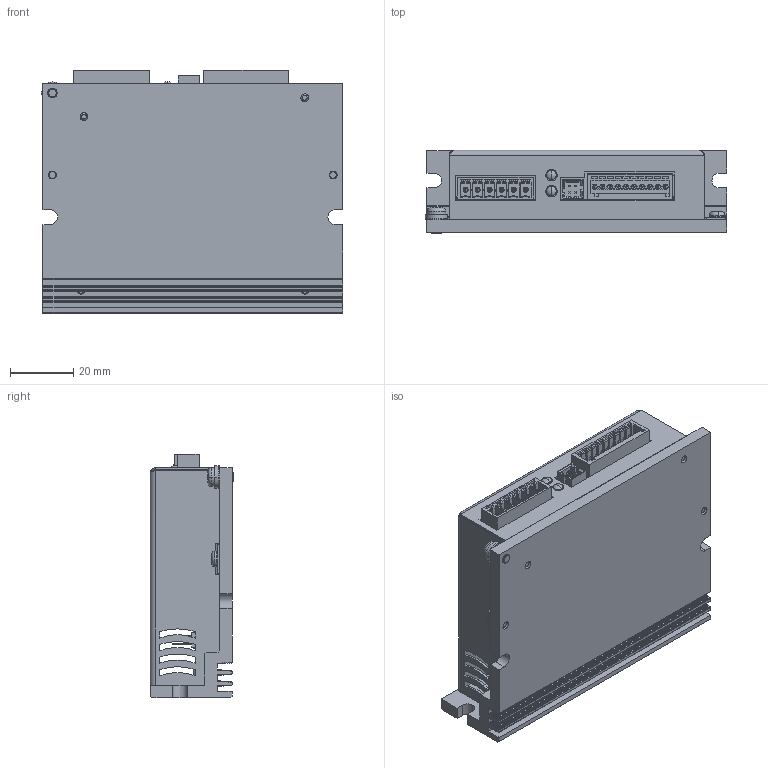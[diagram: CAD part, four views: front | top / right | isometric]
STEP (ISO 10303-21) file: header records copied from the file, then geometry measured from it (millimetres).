
FILE_DESCRIPTION((''),'2;1');
FILE_NAME('LW3D20XX_IBD00_ASM','2020-07-28T16:25:19',('Matteo Maccalli'),(''),'CREO PARAMETRIC BY PTC INC, 2019344','CREO PARAMETRIC BY PTC INC, 2019344','');
FILE_SCHEMA(('AUTOMOTIVE_DESIGN { 1 0 10303 214 1 1 1 1 }'));
Products named in the file (35): ESTRUSO-00_IBD00-00; AD_00941-00_IBD00-00; SCATOLA-00_IBD00-00; TCC_M2E5X04_AF0; TCC_M2E5X04_AF1; BOARD; MC_1_5-6-G-3_81-P14-THR; 1782394_00_ASM; CN1_ASM; MC_0_5-10-G-2_5_THT; 1963502_00_ASM; CN2_ASM; SOLID-110229; COMPOUND-121388; 878330431_ASM; CN6_ASM; SW_DIP8_90_THD; DIP400_ASM; 5151061F; GL400_ASM; SOLID-143102; COMPOUND-149043; 010897061_ASM; JMP400_ASM; RTE0400V04; SW400_ASM; SW401_ASM; PCB_ASM; IBD00-01_1_ASM; TCC_M2E5X05; DIST_MF_M2E5X5_FIL4; MAR-PN3; RONDELLA_DENTELLATA; TCC_M3X06_AF0; LW3D20XX_IBD00_ASM
Assembly tree (39 placements, depth 6):
  LW3D20XX_IBD00_ASM
    ESTRUSO-00_IBD00-00
    AD_00941-00_IBD00-00
    SCATOLA-00_IBD00-00
    TCC_M2E5X04_AF0
    TCC_M2E5X04_AF1
    IBD00-01_1_ASM
      PCB_ASM
        BOARD
        CN1_ASM
          1782394_00_ASM
            MC_1_5-6-G-3_81-P14-THR
        CN2_ASM
          1963502_00_ASM
            MC_0_5-10-G-2_5_THT
        CN6_ASM
          878330431_ASM
            SOLID-110229
            COMPOUND-121388
        DIP400_ASM
          SW_DIP8_90_THD
        GL400_ASM
          5151061F
        JMP400_ASM
          010897061_ASM
            SOLID-143102
            COMPOUND-149043
        SW400_ASM
          RTE0400V04
        SW401_ASM
          RTE0400V04
    TCC_M2E5X05  x4
    DIST_MF_M2E5X5_FIL4  x2
    MAR-PN3
    RONDELLA_DENTELLATA
    TCC_M3X06_AF0
Bounding box: 95.5 x 26.5 x 77.23 mm (x, y, z)
Volume: 56975 mm3; surface area: 62598.1 mm2
Topology: 22 solids, 27 shells, 3511 faces, 9156 edges, 5823 vertices
Faces by surface type: plane 2571, cylinder 768, cone 70, sphere 70, torus 28, bspline 4
Entity records: 115371 total; most frequent: CARTESIAN_POINT 18272, ORIENTED_EDGE 14944, DIRECTION 14540, EDGE_CURVE 7508, PRESENTATION_STYLE_ASSIGNMENT 6051, VECTOR 5772, LINE 5772, STYLED_ITEM 4845
